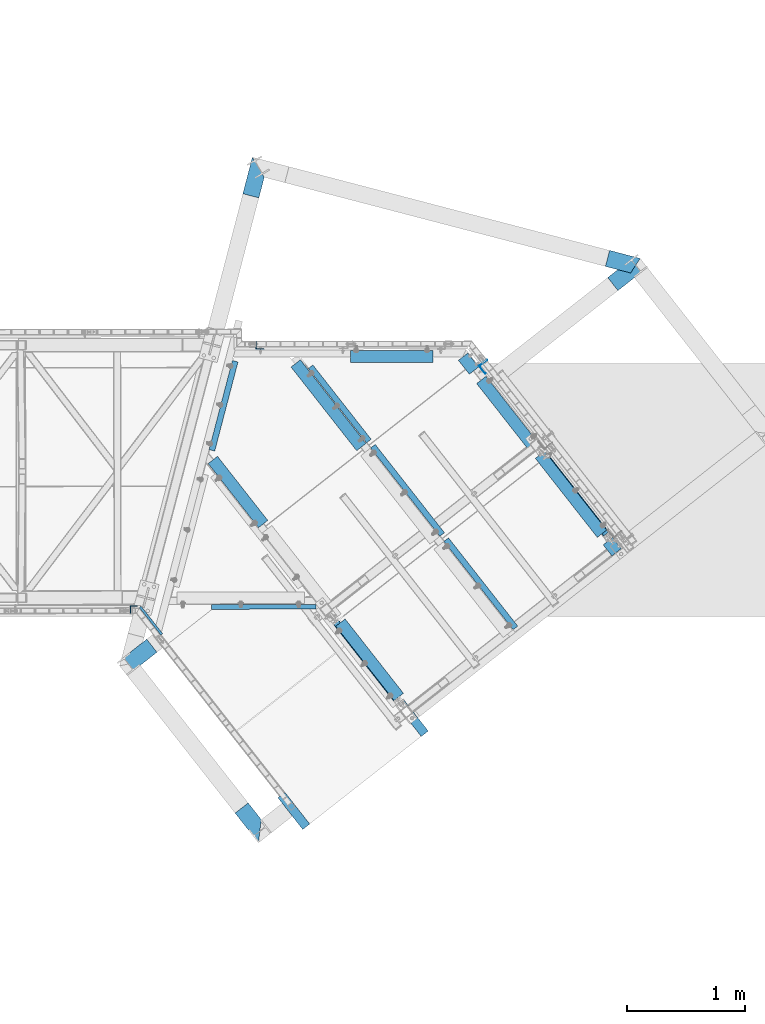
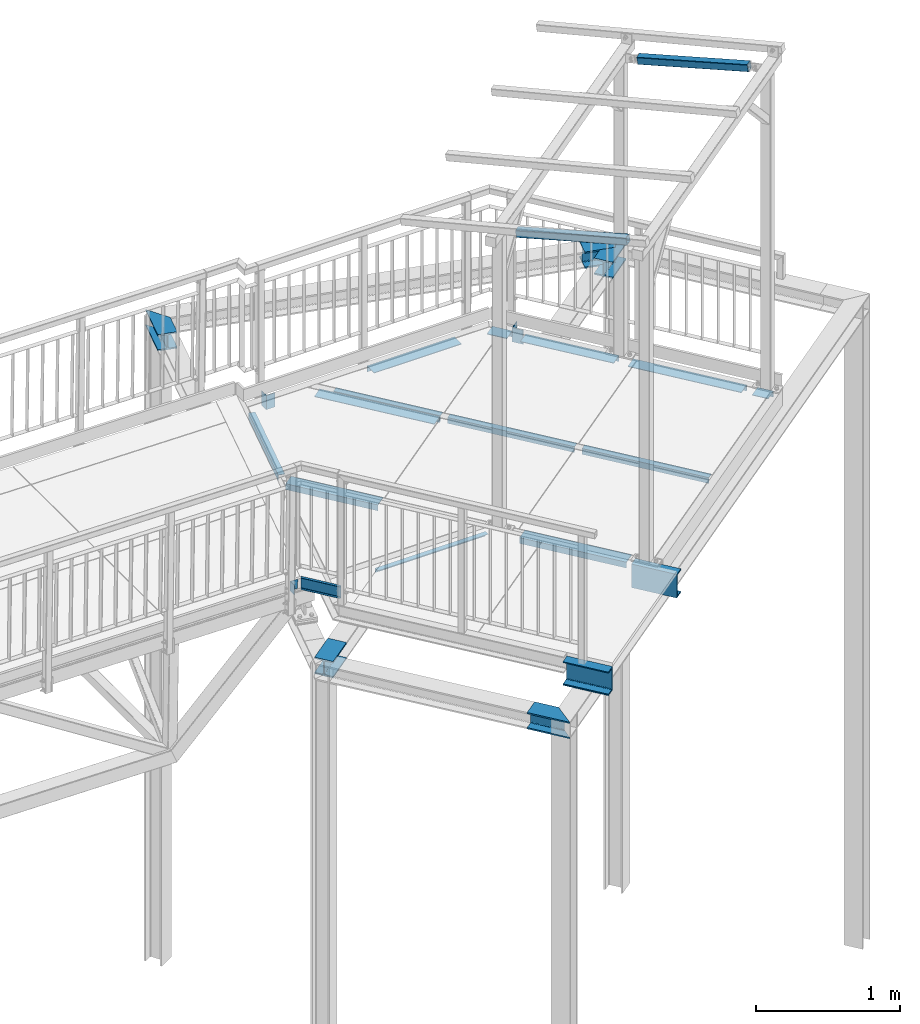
# One storey, part 24 of 169: 25 beams, 1 member, 26 elements without a shape of their own.
"""IFC2X3 building model written with IfcOpenShell, lengths in millimetres."""

from ifc_helpers import new_model, si_unit, frame, origin_with_axes, origin_2d_with_axis, place, context, subcontext, project, spatial, hollow_rectangle, i_section, l_section, u_section, extrude, clip, halfspace, material, type_object, element, aggregate, save


model = new_model("IFC2X3")

# Units and contexts
model_context = context("Model", 3, precision=1e-05, world=origin_with_axes())
body_context = subcontext(model_context, "Body", "Model", "MODEL_VIEW")
ifc_project = project(units=[si_unit("LENGTHUNIT", "METRE", prefix="MILLI"), si_unit("AREAUNIT", "SQUARE_METRE"), si_unit("VOLUMEUNIT", "CUBIC_METRE"), si_unit("MASSUNIT", "GRAM", prefix="KILO"), si_unit("TIMEUNIT", "SECOND"), si_unit("PLANEANGLEUNIT", "RADIAN"), si_unit("SOLIDANGLEUNIT", "STERADIAN"), si_unit("THERMODYNAMICTEMPERATUREUNIT", "DEGREE_CELSIUS"), si_unit("LUMINOUSINTENSITYUNIT", "LUMEN")], contexts=[model_context])

# Site, building, storey
site_placement = place(None, origin_with_axes())
site = spatial("IfcSite", under=ifc_project, at=site_placement, Name="Undefined", CompositionType="ELEMENT")
building_placement = place(site_placement, origin_with_axes())
building = spatial("IfcBuilding", under=site, at=building_placement, Name="Undefined", CompositionType="ELEMENT")
storey_placement = place(building_placement, origin_with_axes())
storey = spatial("IfcBuildingStorey", under=building, at=storey_placement, Name="Undefined", CompositionType="ELEMENT", Elevation=0.0)

# Assembly, beam
assembly_1_placement = place(storey_placement, origin_with_axes())
assembly_1 = element("IfcElementAssembly", 1, at=assembly_1_placement, inside=storey, Name="Steel Assembly", AssemblyPlace="NOTDEFINED", PredefinedType="RIGID_FRAME")
ifc_material_1 = material(Name="STEEL/S235")
beam_type_1 = type_object("IfcBeamType", Name="C100*20*2", PredefinedType="NOTDEFINED")
beam_1_placement = place(assembly_1_placement, frame((18570.5966728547, -171.475034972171, 13861.4955285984), z_axis=(-2.54700353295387e-10, 0.0, -1.0), x_axis=(-0.617242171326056, 0.786773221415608, 5.09999997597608e-08)))
beam_1 = element("IfcBeam", 2, at=beam_1_placement, type_object=beam_type_1, material=ifc_material_1, Name="PORĘCZ", ObjectType="C100*20*2", context=body_context, shape_type="Clipping", body=[
    clip(extrude(u_section(Depth=100.0, FlangeWidth=20.0, WebThickness=2.0, FlangeThickness=2.0, FilletRadius=3.0, at=origin_2d_with_axis()), frame((316.095278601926, 3.59735036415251e-14, 0.0), z_axis=(-1.0, -3.46944695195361e-18, -1.38777878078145e-17), x_axis=(1.73472347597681e-18, -1.0, 0.0)), (0.0, 0.0, 1.0), 316.1), halfspace(frame((290.720896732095, -9.99999999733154, -1.00886427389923e-06), z_axis=(-0.907123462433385, 0.420864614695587, 4.28736412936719e-08), x_axis=(-2.54700353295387e-10, 0.0, -1.0)), True)),
])
aggregate(assembly_1, [beam_1])

assembly_2_placement = place(storey_placement, origin_with_axes())
assembly_2 = element("IfcElementAssembly", 3, at=assembly_2_placement, inside=storey, Name="Steel Assembly", AssemblyPlace="NOTDEFINED", PredefinedType="RIGID_FRAME")
beam_type_2 = type_object("IfcBeamType", Name="SHS60*3", PredefinedType="NOTDEFINED")
beam_2_placement = place(assembly_2_placement, frame((21766.4800399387, 1400.96414109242, 16318.2084245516), z_axis=(-0.111881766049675, 0.142611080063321, 0.983435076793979), x_axis=(0.607017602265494, -0.773740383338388, 0.181260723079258)))
beam_2 = element("IfcBeam", 4, at=beam_2_placement, type_object=beam_type_2, material=ifc_material_1, Name="BEAM", ObjectType="SHS60*3", context=body_context, shape_type="Clipping", body=[
    clip(clip(extrude(hollow_rectangle(XDim=60.0, YDim=60.0, WallThickness=3.0, InnerFilletRadius=3.0, OuterFilletRadius=6.0, at=origin_2d_with_axis()), frame((939.180465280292, -9.44040727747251e-14, 2.60674944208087e-14), z_axis=(-1.0, -3.46944695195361e-18, -1.38777878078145e-17), x_axis=(1.73472347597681e-18, -1.0, 0.0)), (0.0, 0.0, 1.0), 841.18), halfspace(frame((939.180465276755, -11.9999999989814, -6.37537596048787e-08), z_axis=(-1.0, -3.46944695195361e-18, -1.38777878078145e-17), x_axis=(-2.54700353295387e-10, 0.0, -1.0)), True)), halfspace(frame((97.999994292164, -4.00000001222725, -2.10984580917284e-08), z_axis=(1.0, 0.0, 0.0), x_axis=(0.0, 0.0, 1.0)), True)),
])
aggregate(assembly_2, [beam_2])

assembly_3_placement = place(storey_placement, origin_with_axes())
assembly_3 = element("IfcElementAssembly", 5, at=assembly_3_placement, inside=storey, Name="Steel Assembly", AssemblyPlace="NOTDEFINED", PredefinedType="RIGID_FRAME")
beam_3_placement = place(assembly_3_placement, frame((19988.3725595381, 5.996833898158, 16318.2081895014), z_axis=(-0.111881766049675, 0.142611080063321, 0.983435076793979), x_axis=(0.607017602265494, -0.773740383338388, 0.181260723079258)))
beam_3 = element("IfcBeam", 6, at=beam_3_placement, type_object=beam_type_2, material=ifc_material_1, Name="BEAM", ObjectType="SHS60*3", context=body_context, shape_type="Clipping", body=[
    clip(clip(extrude(hollow_rectangle(XDim=60.0, YDim=60.0, WallThickness=3.0, InnerFilletRadius=3.0, OuterFilletRadius=6.0, at=origin_2d_with_axis()), frame((939.180465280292, -9.44040727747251e-14, 2.60674944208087e-14), z_axis=(-1.0, -3.46944695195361e-18, -1.38777878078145e-17), x_axis=(1.73472347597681e-18, -1.0, 0.0)), (0.0, 0.0, 1.0), 841.18), halfspace(frame((939.180465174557, 4.00000003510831, 2.10893631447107e-08), z_axis=(-1.0, -3.46944695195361e-18, -1.38777878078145e-17), x_axis=(0.0, 0.0, 1.0)), True)), halfspace(frame((97.9999944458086, 11.9999999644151, 6.31971488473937e-08), z_axis=(1.0, 0.0, 0.0), x_axis=(-2.54700353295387e-10, 0.0, -1.0)), True)),
])
aggregate(assembly_3, [beam_3])

# Assembly, member
assembly_4_placement = place(storey_placement, origin_with_axes())
assembly_4 = element("IfcElementAssembly", 7, at=assembly_4_placement, inside=storey, Name="Steel Assembly", AssemblyPlace="NOTDEFINED", PredefinedType="RIGID_FRAME")
member_type = type_object("IfcMemberType", Name="L60*3", PredefinedType="NOTDEFINED")
member_placement = place(assembly_4_placement, frame((18333.9868407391, 39.2041502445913, 13901.1874461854), z_axis=(0.9999174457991, 0.00186469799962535, -0.0127131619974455), x_axis=(-0.012713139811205, -2.37511238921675e-05, -0.999919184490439)))
member = element("IfcMember", 8, at=member_placement, type_object=member_type, material=ifc_material_1, Name="BEAM", ObjectType="L60*3", context=body_context, shape_type="SweptSolid", body=[
    extrude(l_section(Depth=60.0, Width=60.0, Thickness=3.0, FilletRadius=4.5, at=origin_2d_with_axis()), frame((79.9999999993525, -4.5446979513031e-13, -4.53637127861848e-13), z_axis=(-1.0, -3.46944695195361e-18, -1.38777878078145e-17), x_axis=(1.73472347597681e-18, -1.0, 0.0)), (0.0, 0.0, 1.0), 80.0),
])
aggregate(assembly_4, [member])

# Assembly, beam
assembly_5_placement = place(storey_placement, origin_with_axes())
assembly_5 = element("IfcElementAssembly", 9, at=assembly_5_placement, inside=storey, Name="Steel Assembly", AssemblyPlace="NOTDEFINED", PredefinedType="RIGID_FRAME")
beam_type_3 = type_object("IfcBeamType", Name="L100*50*5", PredefinedType="NOTDEFINED")
beam_4_placement = place(assembly_5_placement, frame((20168.708483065, 2180.02226841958, 13740.4181354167), z_axis=(0.00172596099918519, -0.999998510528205, 0.0), x_axis=(0.999998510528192, 0.0017259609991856, 1.66000001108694e-07)))
beam_4 = element("IfcBeam", 10, at=beam_4_placement, type_object=beam_type_3, material=ifc_material_1, Name="BEAM", ObjectType="L100*50*5", context=body_context, shape_type="SweptSolid", body=[
    extrude(l_section(Depth=100.0, Width=50.0, Thickness=5.0, FilletRadius=7.5, at=origin_2d_with_axis()), frame((699.999999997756, 1.81898938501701e-12, -3.03576608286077e-16), z_axis=(-1.0, -3.46944695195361e-18, -1.38777878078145e-17), x_axis=(1.73472347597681e-18, -1.0, 0.0)), (0.0, 0.0, 1.0), 700.0),
])
aggregate(assembly_5, [beam_4])

assembly_6_placement = place(storey_placement, origin_with_axes())
assembly_6 = element("IfcElementAssembly", 11, at=assembly_6_placement, inside=storey, Name="Steel Assembly", AssemblyPlace="NOTDEFINED", PredefinedType="RIGID_FRAME")
beam_5_placement = place(assembly_6_placement, frame((19429.3059049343, 762.359079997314, 13740.4178165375), z_axis=(0.786773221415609, 0.617242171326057, 0.0), x_axis=(-0.617242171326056, 0.786773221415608, 5.09999997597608e-08)))
beam_5 = element("IfcBeam", 12, at=beam_5_placement, type_object=beam_type_3, material=ifc_material_1, Name="BEAM", ObjectType="L100*50*5", context=body_context, shape_type="SweptSolid", body=[
    extrude(l_section(Depth=100.0, Width=50.0, Thickness=5.0, FilletRadius=7.5, at=origin_2d_with_axis()), frame((690.00000000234, -1.81898940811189e-12, 8.1503759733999e-28), z_axis=(-1.0, -3.46944695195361e-18, -1.38777878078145e-17), x_axis=(1.73472347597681e-18, -1.0, 0.0)), (0.0, 0.0, 1.0), 690.0),
])
aggregate(assembly_6, [beam_5])

assembly_7_placement = place(storey_placement, origin_with_axes())
assembly_7 = element("IfcElementAssembly", 13, at=assembly_7_placement, inside=storey, Name="Steel Assembly", AssemblyPlace="NOTDEFINED", PredefinedType="RIGID_FRAME")
beam_6_placement = place(assembly_7_placement, frame((20577.4542904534, -701.138467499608, 13740.417933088), z_axis=(0.786773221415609, 0.617242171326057, 0.0), x_axis=(-0.617242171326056, 0.786773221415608, 5.09999997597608e-08)))
beam_6 = element("IfcBeam", 14, at=beam_6_placement, type_object=beam_type_3, material=ifc_material_1, Name="BEAM", ObjectType="L100*50*5", context=body_context, shape_type="SweptSolid", body=[
    extrude(l_section(Depth=100.0, Width=50.0, Thickness=5.0, FilletRadius=7.5, at=origin_2d_with_axis()), frame((800.000000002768, 0.0, 8.88178419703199e-14), z_axis=(-1.0, -3.46944695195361e-18, -1.38777878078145e-17), x_axis=(1.73472347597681e-18, -1.0, 0.0)), (0.0, 0.0, 1.0), 800.0),
])
aggregate(assembly_7, [beam_6])

assembly_8_placement = place(storey_placement, origin_with_axes())
assembly_8 = element("IfcElementAssembly", 15, at=assembly_8_placement, inside=storey, Name="Steel Assembly", AssemblyPlace="NOTDEFINED", PredefinedType="RIGID_FRAME")
beam_7_placement = place(assembly_8_placement, frame((22347.0243388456, 617.225231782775, 13740.4184495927), z_axis=(-0.7867732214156, -0.61724217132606, -1.0406294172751e-07), x_axis=(0.617242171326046, -0.786773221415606, 1.36000016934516e-07)))
beam_7 = element("IfcBeam", 16, at=beam_7_placement, type_object=beam_type_3, material=ifc_material_1, Name="BEAM", ObjectType="L100*50*5", context=body_context, shape_type="SweptSolid", body=[
    extrude(l_section(Depth=100.0, Width=50.0, Thickness=5.0, FilletRadius=7.5, at=origin_2d_with_axis()), frame((119.999999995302, 0.0, 1.94394063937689e-27), z_axis=(-1.0, -3.46944695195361e-18, -1.38777878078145e-17), x_axis=(1.73472347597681e-18, -1.0, 0.0)), (0.0, 0.0, 1.0), 120.0),
])
aggregate(assembly_8, [beam_7])

assembly_9_placement = place(storey_placement, origin_with_axes())
assembly_9 = element("IfcElementAssembly", 17, at=assembly_9_placement, inside=storey, Name="Steel Assembly", AssemblyPlace="NOTDEFINED", PredefinedType="RIGID_FRAME")
beam_8_placement = place(assembly_9_placement, frame((21121.7985741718, 2178.97014587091, 13740.4181796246), z_axis=(-0.7867732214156, -0.61724217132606, -1.0406294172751e-07), x_axis=(0.617242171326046, -0.786773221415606, 1.36000016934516e-07)))
beam_8 = element("IfcBeam", 18, at=beam_8_placement, type_object=beam_type_3, material=ifc_material_1, Name="BEAM", ObjectType="L100*50*5", context=body_context, shape_type="SweptSolid", body=[
    extrude(l_section(Depth=100.0, Width=50.0, Thickness=5.0, FilletRadius=7.5, at=origin_2d_with_axis()), frame((150.000000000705, -1.81898940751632e-12, 8.32667268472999e-15), z_axis=(-1.0, -3.46944695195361e-18, -1.38777878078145e-17), x_axis=(1.73472347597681e-18, -1.0, 0.0)), (0.0, 0.0, 1.0), 150.0),
])
aggregate(assembly_9, [beam_8])

assembly_10_placement = place(storey_placement, origin_with_axes())
assembly_10 = element("IfcElementAssembly", 19, at=assembly_10_placement, inside=storey, Name="Steel Assembly", AssemblyPlace="NOTDEFINED", PredefinedType="RIGID_FRAME")
beam_9_placement = place(assembly_10_placement, frame((21772.9890589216, 1348.92440497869, 13740.4183231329), z_axis=(-0.7867732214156, -0.61724217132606, -1.0406294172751e-07), x_axis=(0.617242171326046, -0.786773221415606, 1.36000016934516e-07)))
beam_9 = element("IfcBeam", 20, at=beam_9_placement, type_object=beam_type_3, material=ifc_material_1, Name="BEAM", ObjectType="L100*50*5", context=body_context, shape_type="SweptSolid", body=[
    extrude(l_section(Depth=100.0, Width=50.0, Thickness=5.0, FilletRadius=7.5, at=origin_2d_with_axis()), frame((850.000000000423, 3.6379787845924e-12, 4.71844785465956e-14), z_axis=(-1.0, -3.46944695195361e-18, -1.38777878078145e-17), x_axis=(1.73472347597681e-18, -1.0, 0.0)), (0.0, 0.0, 1.0), 850.0),
])
aggregate(assembly_10, [beam_9])

assembly_11_placement = place(storey_placement, origin_with_axes())
assembly_11 = element("IfcElementAssembly", 21, at=assembly_11_placement, inside=storey, Name="Steel Assembly", AssemblyPlace="NOTDEFINED", PredefinedType="RIGID_FRAME")
beam_10_placement = place(assembly_11_placement, frame((21276.1091170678, 1982.27684055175, 13740.4182136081), z_axis=(-0.7867732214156, -0.61724217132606, -1.0406294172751e-07), x_axis=(0.617242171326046, -0.786773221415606, 1.36000016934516e-07)))
beam_10 = element("IfcBeam", 22, at=beam_10_placement, type_object=beam_type_3, material=ifc_material_1, Name="BEAM", ObjectType="L100*50*5", context=body_context, shape_type="SweptSolid", body=[
    extrude(l_section(Depth=100.0, Width=50.0, Thickness=5.0, FilletRadius=7.5, at=origin_2d_with_axis()), frame((699.999999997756, 1.81898938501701e-12, -3.03576608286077e-16), z_axis=(-1.0, -3.46944695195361e-18, -1.38777878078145e-17), x_axis=(1.73472347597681e-18, -1.0, 0.0)), (0.0, 0.0, 1.0), 700.0),
])
aggregate(assembly_11, [beam_10])

assembly_12_placement = place(storey_placement, origin_with_axes())
assembly_12 = element("IfcElementAssembly", 23, at=assembly_12_placement, inside=storey, Name="Steel Assembly", AssemblyPlace="NOTDEFINED", PredefinedType="RIGID_FRAME")
beam_11_placement = place(assembly_12_placement, frame((19704.7677613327, 2122.07496918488, 13740.4179470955), z_axis=(-0.7867732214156, -0.61724217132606, -1.0406294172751e-07), x_axis=(0.617242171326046, -0.786773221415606, 1.36000016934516e-07)))
beam_11 = element("IfcBeam", 24, at=beam_11_placement, type_object=beam_type_3, material=ifc_material_1, Name="BEAM", ObjectType="L100*50*5", context=body_context, shape_type="SweptSolid", body=[
    extrude(l_section(Depth=100.0, Width=50.0, Thickness=5.0, FilletRadius=7.5, at=origin_2d_with_axis()), frame((900.000000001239, 0.0, 3.78785891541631e-12), z_axis=(-1.0, -3.46944695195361e-18, -1.38777878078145e-17), x_axis=(1.73472347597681e-18, -1.0, 0.0)), (0.0, 0.0, 1.0), 900.0),
])
aggregate(assembly_12, [beam_11])

assembly_13_placement = place(storey_placement, origin_with_axes())
assembly_13 = element("IfcElementAssembly", 25, at=assembly_13_placement, inside=storey, Name="Steel Assembly", AssemblyPlace="NOTDEFINED", PredefinedType="RIGID_FRAME")
beam_type_4 = type_object("IfcBeamType", Name="L50*3", PredefinedType="NOTDEFINED")
beam_12_placement = place(assembly_13_placement, frame((18995.8557217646, 1386.04098613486, 13740.4179516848), z_axis=(0.967563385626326, -0.252628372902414, 0.0), x_axis=(0.252628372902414, 0.967563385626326, 0.0)))
beam_12 = element("IfcBeam", 26, at=beam_12_placement, type_object=beam_type_4, material=ifc_material_1, Name="BEAM", ObjectType="L50*3", context=body_context, shape_type="SweptSolid", body=[
    extrude(l_section(Depth=50.0, Width=50.0, Thickness=3.0, FilletRadius=7.0, EdgeRadius=3.5, at=origin_2d_with_axis()), frame((780.000000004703, -1.81898942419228e-12, -4.32986979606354e-14), z_axis=(-1.0, -3.46944695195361e-18, -1.38777878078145e-17), x_axis=(1.73472347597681e-18, -1.0, 0.0)), (0.0, 0.0, 1.0), 780.0),
])
aggregate(assembly_13, [beam_12])

assembly_14_placement = place(storey_placement, origin_with_axes())
assembly_14 = element("IfcElementAssembly", 27, at=assembly_14_placement, inside=storey, Name="Steel Assembly", AssemblyPlace="NOTDEFINED", PredefinedType="RIGID_FRAME")
beam_13_placement = place(assembly_14_placement, frame((20324.7617656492, 1464.56194607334, 13740.417937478), z_axis=(0.786773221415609, 0.617242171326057, 0.0), x_axis=(-0.617242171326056, 0.786773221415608, 5.09999997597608e-08)))
beam_13 = element("IfcBeam", 28, at=beam_13_placement, type_object=beam_type_4, material=ifc_material_1, Name="BEAM", ObjectType="L50*3", context=body_context, shape_type="SweptSolid", body=[
    extrude(l_section(Depth=50.0, Width=50.0, Thickness=3.0, FilletRadius=7.0, EdgeRadius=3.5, at=origin_2d_with_axis()), frame((800.000000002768, 0.0, 8.88178419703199e-14), z_axis=(-1.0, -3.46944695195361e-18, -1.38777878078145e-17), x_axis=(1.73472347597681e-18, -1.0, 0.0)), (0.0, 0.0, 1.0), 800.0),
])
aggregate(assembly_14, [beam_13])

assembly_15_placement = place(storey_placement, origin_with_axes())
assembly_15 = element("IfcElementAssembly", 29, at=assembly_15_placement, inside=storey, Name="Steel Assembly", AssemblyPlace="NOTDEFINED", PredefinedType="RIGID_FRAME")
beam_14_placement = place(assembly_15_placement, frame((20945.0207539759, 673.943312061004, 13740.4180741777), z_axis=(0.786773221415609, 0.617242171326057, 0.0), x_axis=(-0.617242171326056, 0.786773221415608, 5.09999997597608e-08)))
beam_14 = element("IfcBeam", 30, at=beam_14_placement, type_object=beam_type_4, material=ifc_material_1, Name="BEAM", ObjectType="L50*3", context=body_context, shape_type="SweptSolid", body=[
    extrude(l_section(Depth=50.0, Width=50.0, Thickness=3.0, FilletRadius=7.0, EdgeRadius=3.5, at=origin_2d_with_axis()), frame((950.000000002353, 0.0, -5.12984327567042e-27), z_axis=(-1.0, -3.46944695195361e-18, -1.38777878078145e-17), x_axis=(1.73472347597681e-18, -1.0, 0.0)), (0.0, 0.0, 1.0), 950.0),
])
aggregate(assembly_15, [beam_14])

assembly_16_placement = place(storey_placement, origin_with_axes())
assembly_16 = element("IfcElementAssembly", 31, at=assembly_16_placement, inside=storey, Name="Steel Assembly", AssemblyPlace="NOTDEFINED", PredefinedType="RIGID_FRAME")
beam_15_placement = place(assembly_16_placement, frame((21565.3491361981, -116.763775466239, 13740.4180744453), z_axis=(0.786773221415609, 0.617242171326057, 0.0), x_axis=(-0.617242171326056, 0.786773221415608, 5.09999997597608e-08)))
beam_15 = element("IfcBeam", 32, at=beam_15_placement, type_object=beam_type_4, material=ifc_material_1, Name="BEAM", ObjectType="L50*3", context=body_context, shape_type="SweptSolid", body=[
    extrude(l_section(Depth=50.0, Width=50.0, Thickness=3.0, FilletRadius=7.0, EdgeRadius=3.5, at=origin_2d_with_axis()), frame((950.000000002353, 0.0, -5.12984327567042e-27), z_axis=(-1.0, -3.46944695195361e-18, -1.38777878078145e-17), x_axis=(1.73472347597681e-18, -1.0, 0.0)), (0.0, 0.0, 1.0), 950.0),
])
aggregate(assembly_16, [beam_15])

assembly_17_placement = place(storey_placement, origin_with_axes())
assembly_17 = element("IfcElementAssembly", 33, at=assembly_17_placement, inside=storey, Name="Steel Assembly", AssemblyPlace="NOTDEFINED", PredefinedType="RIGID_FRAME")
beam_type_5 = type_object("IfcBeamType", Name="L40*3", PredefinedType="NOTDEFINED")
beam_16_placement = place(assembly_17_placement, frame((19877.5676770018, 62.0838431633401, 13745.4173738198), z_axis=(-2.54700353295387e-10, 0.0, -1.0), x_axis=(-0.999998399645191, -0.00178905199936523, -2.9999999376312e-08)))
beam_16 = element("IfcBeam", 34, at=beam_16_placement, type_object=beam_type_5, material=ifc_material_1, Name="BEAM", ObjectType="L40*3", context=body_context, shape_type="SweptSolid", body=[
    extrude(l_section(Depth=40.0, Width=40.0, Thickness=3.0, FilletRadius=6.0, EdgeRadius=3.0, at=origin_2d_with_axis()), frame((884.999999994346, -3.4540123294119e-15, -1.81898940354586e-12), z_axis=(-1.0, -3.46944695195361e-18, -1.38777878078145e-17), x_axis=(1.73472347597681e-18, -1.0, 0.0)), (0.0, 0.0, 1.0), 885.0),
])
aggregate(assembly_17, [beam_16])

assembly_18_placement = place(storey_placement, origin_with_axes())
assembly_18 = element("IfcElementAssembly", 35, at=assembly_18_placement, inside=storey, Name="Steel Assembly", AssemblyPlace="NOTDEFINED", PredefinedType="RIGID_FRAME")
beam_type_6 = type_object("IfcBeamType", Name="L70*5", PredefinedType="NOTDEFINED")
beam_17_placement = place(assembly_18_placement, frame((19401.7702237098, 2275.68441238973, 13785.0826501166), z_axis=(-0.00182808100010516, 0.999998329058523, -1.39259354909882e-07), x_axis=(-2.54700353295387e-10, 0.0, -1.0)))
beam_17 = element("IfcBeam", 36, at=beam_17_placement, type_object=beam_type_6, material=ifc_material_1, Name="BEAM", ObjectType="L70*5", context=body_context, shape_type="SweptSolid", body=[
    extrude(l_section(Depth=70.0, Width=70.0, Thickness=5.0, FilletRadius=9.0, EdgeRadius=4.5, at=origin_2d_with_axis()), frame((119.999999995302, 0.0, 1.94394063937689e-27), z_axis=(-1.0, -3.46944695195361e-18, -1.38777878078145e-17), x_axis=(1.73472347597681e-18, -1.0, 0.0)), (0.0, 0.0, 1.0), 120.0),
])
aggregate(assembly_18, [beam_17])

assembly_19_placement = place(storey_placement, origin_with_axes())
assembly_19 = element("IfcElementAssembly", 37, at=assembly_19_placement, inside=storey, Name="Steel Assembly", AssemblyPlace="NOTDEFINED", PredefinedType="RIGID_FRAME")
beam_type_7 = type_object("IfcBeamType", Name="L85*5", PredefinedType="NOTDEFINED")
beam_18_placement = place(assembly_19_placement, frame((21315.0659010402, 2093.82111665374, 13785.4175398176), z_axis=(0.786773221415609, 0.617242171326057, 0.0), x_axis=(-2.54700353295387e-10, 0.0, -1.0)))
beam_18 = element("IfcBeam", 38, at=beam_18_placement, type_object=beam_type_7, material=ifc_material_1, Name="BEAM", ObjectType="L85*5", context=body_context, shape_type="SweptSolid", body=[
    extrude(l_section(Depth=85.0, Width=85.0, Thickness=5.0, FilletRadius=7.5, at=origin_2d_with_axis()), frame((119.999999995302, 0.0, 1.94394063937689e-27), z_axis=(-1.0, -3.46944695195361e-18, -1.38777878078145e-17), x_axis=(1.73472347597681e-18, -1.0, 0.0)), (0.0, 0.0, 1.0), 120.0),
])
aggregate(assembly_19, [beam_18])

assembly_20_placement = place(storey_placement, origin_with_axes())
assembly_20 = element("IfcElementAssembly", 39, at=assembly_20_placement, inside=storey, Name="Steel Assembly", AssemblyPlace="NOTDEFINED", PredefinedType="RIGID_FRAME")
ifc_material_2 = material(Name="STEEL/S355")
beam_type_8 = type_object("IfcBeamType", Name="UPN200", PredefinedType="NOTDEFINED")
beam_19_placement = place(assembly_20_placement, frame((20586.8260767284, -744.676423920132, 13665.4175258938), z_axis=(-2.54700353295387e-10, 0.0, -1.0), x_axis=(0.617242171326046, -0.786773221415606, 1.36000016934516e-07)))
beam_19 = element("IfcBeam", 40, at=beam_19_placement, type_object=beam_type_8, material=ifc_material_2, Name="BEAM", ObjectType="UPN200", context=body_context, shape_type="SweptSolid", body=[
    extrude(u_section(Depth=200.0, FlangeWidth=75.0, WebThickness=8.5, FlangeThickness=11.5, FilletRadius=11.5, EdgeRadius=6.0, at=origin_2d_with_axis()), frame((340.999999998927, -1.93514477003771e-14, -3.63797880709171e-12), z_axis=(-1.0, -3.46944695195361e-18, -1.38777878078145e-17), x_axis=(1.73472347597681e-18, -1.0, 0.0)), (0.0, 0.0, 1.0), 341.0),
])
aggregate(assembly_20, [beam_19])

assembly_21_placement = place(storey_placement, origin_with_axes())
assembly_21 = element("IfcElementAssembly", 41, at=assembly_21_placement, inside=storey, Name="Steel Assembly", AssemblyPlace="NOTDEFINED", PredefinedType="RIGID_FRAME")
beam_20_placement = place(assembly_21_placement, frame((19583.6902193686, -1531.6601923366, 13665.4173933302), z_axis=(0.0, 0.0, 1.0), x_axis=(0.617242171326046, -0.786773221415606, 1.36000016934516e-07)))
beam_20 = element("IfcBeam", 42, at=beam_20_placement, type_object=beam_type_8, material=ifc_material_2, Name="BEAM", ObjectType="UPN200", context=body_context, shape_type="SweptSolid", body=[
    extrude(u_section(Depth=200.0, FlangeWidth=75.0, WebThickness=8.5, FlangeThickness=11.5, FilletRadius=11.5, EdgeRadius=6.0, at=origin_2d_with_axis()), frame((340.999999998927, -1.93514477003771e-14, -3.63797880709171e-12), z_axis=(-1.0, -3.46944695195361e-18, -1.38777878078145e-17), x_axis=(1.73472347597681e-18, -1.0, 0.0)), (0.0, 0.0, 1.0), 341.0),
])
aggregate(assembly_21, [beam_20])

assembly_22_placement = place(storey_placement, origin_with_axes())
assembly_22 = element("IfcElementAssembly", 43, at=assembly_22_placement, inside=storey, Name="Steel Assembly", AssemblyPlace="NOTDEFINED", PredefinedType="RIGID_FRAME")
beam_type_9 = type_object("IfcBeamType", Name="HEB140", PredefinedType="NOTDEFINED")
beam_21_placement = place(assembly_22_placement, frame((22389.5952668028, 2793.72541201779, 13470.4176729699), z_axis=(-2.54700353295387e-10, 0.0, -1.0), x_axis=(0.786773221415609, 0.617242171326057, 0.0)))
beam_21 = element("IfcBeam", 44, at=beam_21_placement, type_object=beam_type_9, material=ifc_material_2, Name="BEAM", ObjectType="HEB140", context=body_context, shape_type="SweptSolid", body=[
    extrude(i_section(OverallWidth=140.0, OverallDepth=140.0, WebThickness=7.0, FlangeThickness=12.0, FilletRadius=12.0, at=origin_2d_with_axis()), frame((249.999999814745, 1.82161264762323e-12, -1.8189894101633e-12), z_axis=(-1.0, -3.46944695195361e-18, -1.38777878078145e-17), x_axis=(1.73472347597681e-18, -1.0, 0.0)), (0.0, 0.0, 1.0), 250.0),
])
aggregate(assembly_22, [beam_21])

assembly_23_placement = place(storey_placement, origin_with_axes())
assembly_23 = element("IfcElementAssembly", 45, at=assembly_23_placement, inside=storey, Name="Steel Assembly", AssemblyPlace="NOTDEFINED", PredefinedType="RIGID_FRAME")
beam_22_placement = place(assembly_23_placement, frame((19247.2935466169, -1641.5556119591, 13470.4173422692), z_axis=(-2.54700353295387e-10, 0.0, -1.0), x_axis=(0.617242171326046, -0.786773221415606, 1.36000016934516e-07)))
beam_22 = element("IfcBeam", 46, at=beam_22_placement, type_object=beam_type_9, material=ifc_material_2, Name="BEAM", ObjectType="HEB140", context=body_context, shape_type="Clipping", body=[
    clip(extrude(i_section(OverallWidth=140.0, OverallDepth=140.0, WebThickness=7.0, FlangeThickness=12.0, FilletRadius=12.0, at=origin_2d_with_axis()), frame((404.164387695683, 2.1935286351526e-14, 1.81898939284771e-12), z_axis=(-1.0, -3.46944695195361e-18, -1.38777878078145e-17), x_axis=(1.73472347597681e-18, -1.0, 0.0)), (0.0, 0.0, 1.0), 404.16), halfspace(frame((320.000000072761, 70.0000145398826, 1.54390363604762e-07), z_axis=(-0.707106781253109, 0.707106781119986, 1.80100347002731e-10), x_axis=(0.0, 0.0, 1.0)), True)),
])
aggregate(assembly_23, [beam_22])

assembly_24_placement = place(storey_placement, origin_with_axes())
assembly_24 = element("IfcElementAssembly", 47, at=assembly_24_placement, inside=storey, Name="Steel Assembly", AssemblyPlace="NOTDEFINED", PredefinedType="RIGID_FRAME")
beam_23_placement = place(assembly_24_placement, frame((18290.5686737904, -422.057746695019, 13470.4171322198), z_axis=(-2.54700353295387e-10, 0.0, -1.0), x_axis=(0.786773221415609, 0.617242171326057, 0.0)))
beam_23 = element("IfcBeam", 48, at=beam_23_placement, type_object=beam_type_9, material=ifc_material_2, Name="BEAM", ObjectType="HEB140", context=body_context, shape_type="SweptSolid", body=[
    extrude(i_section(OverallWidth=140.0, OverallDepth=140.0, WebThickness=7.0, FlangeThickness=12.0, FilletRadius=12.0, at=origin_2d_with_axis()), frame((249.999999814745, 1.82161264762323e-12, -1.8189894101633e-12), z_axis=(-1.0, -3.46944695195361e-18, -1.38777878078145e-17), x_axis=(1.73472347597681e-18, -1.0, 0.0)), (0.0, 0.0, 1.0), 250.0),
])
aggregate(assembly_24, [beam_23])

assembly_25_placement = place(storey_placement, origin_with_axes())
assembly_25 = element("IfcElementAssembly", 49, at=assembly_25_placement, inside=storey, Name="Steel Assembly", AssemblyPlace="NOTDEFINED", PredefinedType="RIGID_FRAME")
beam_24_placement = place(assembly_25_placement, frame((22344.3981935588, 3011.19292584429, 13470.4176560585), z_axis=(-2.54700353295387e-10, 0.0, -1.0), x_axis=(0.967563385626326, -0.252628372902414, 0.0)))
beam_24 = element("IfcBeam", 50, at=beam_24_placement, type_object=beam_type_9, material=ifc_material_2, Name="BEAM", ObjectType="HEB140", context=body_context, shape_type="Clipping", body=[
    clip(extrude(i_section(OverallWidth=140.0, OverallDepth=140.0, WebThickness=7.0, FlangeThickness=12.0, FilletRadius=12.0, at=origin_2d_with_axis()), frame((334.130677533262, -2.81909789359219e-14, 8.84436539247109e-21), z_axis=(-1.0, -3.46944695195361e-18, -1.38777878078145e-17), x_axis=(1.73472347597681e-18, -1.0, 0.0)), (0.0, 0.0, 1.0), 334.13), halfspace(frame((267.810339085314, -69.9999999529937, -1.22612436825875e-06), z_axis=(-0.947623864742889, -0.319388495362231, -3.82728563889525e-10), x_axis=(-2.54700353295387e-10, 0.0, -1.0)), True)),
])
aggregate(assembly_25, [beam_24])

assembly_26_placement = place(storey_placement, origin_with_axes())
assembly_26 = element("IfcElementAssembly", 51, at=assembly_26_placement, inside=storey, Name="Steel Assembly", AssemblyPlace="NOTDEFINED", PredefinedType="RIGID_FRAME")
beam_25_placement = place(assembly_26_placement, frame((19325.3344889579, 3541.08188083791, 13470.4171322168), z_axis=(-2.54700353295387e-10, 0.0, -1.0), x_axis=(0.252628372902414, 0.967563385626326, 0.0)))
beam_25 = element("IfcBeam", 52, at=beam_25_placement, type_object=beam_type_9, material=ifc_material_2, Name="BEAM", ObjectType="HEB140", context=body_context, shape_type="Clipping", body=[
    clip(extrude(i_section(OverallWidth=140.0, OverallDepth=140.0, WebThickness=7.0, FlangeThickness=12.0, FilletRadius=12.0, at=origin_2d_with_axis()), frame((380.801611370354, 1.05693679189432e-14, 0.0), z_axis=(-1.0, -3.46944695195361e-18, -1.38777878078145e-17), x_axis=(1.73472347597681e-18, -1.0, 0.0)), (0.0, 0.0, 1.0), 380.8), halfspace(frame((320.000000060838, -70.0000000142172, 4.47726051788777e-08), z_axis=(-0.707106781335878, -0.707106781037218, 2.34571939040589e-10), x_axis=(-2.54700353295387e-10, 0.0, -1.0)), True)),
])
aggregate(assembly_26, [beam_25])

save(model, "model.ifc")
